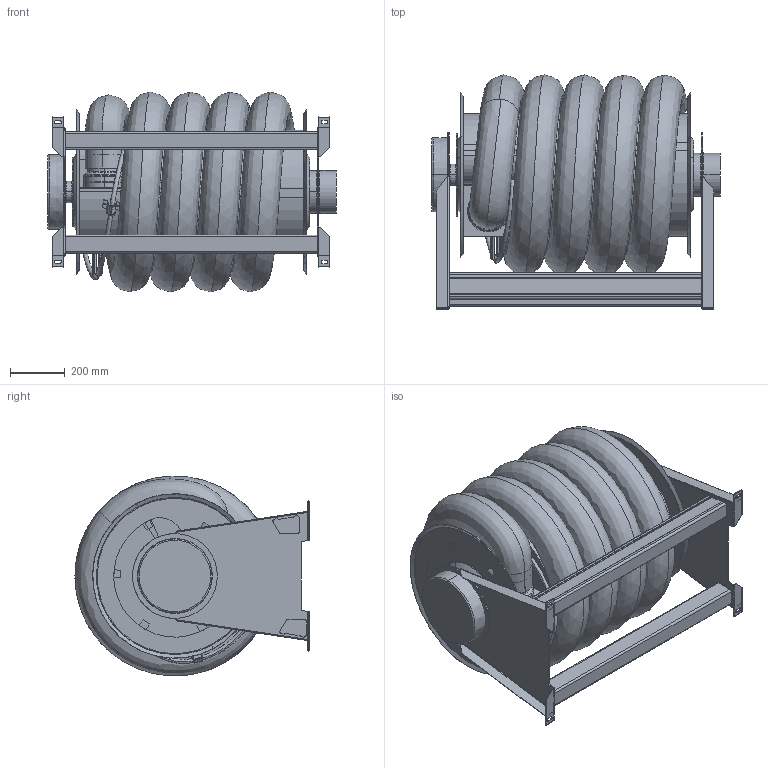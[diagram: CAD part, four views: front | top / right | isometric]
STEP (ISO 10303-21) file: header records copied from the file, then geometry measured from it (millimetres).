
FILE_DESCRIPTION((''),'2;1');
FILE_NAME('ASE_85_125-10_SW0001','2016-12-15T',('Martin Eriksson'),(''),'CREO PARAMETRIC BY PTC INC, 2016130','CREO PARAMETRIC BY PTC INC, 2016130','');
FILE_SCHEMA(('AUTOMOTIVE_DESIGN { 1 0 10303 214 1 1 1 1 }'));
Length unit declared in the file: millimetre
Products named in the file (1): ASE_85_125-10_SW0001
Bounding box: 1053.5 x 855 x 729.8 mm (x, y, z)
Surface area: 8607322.1 mm2 (no closed solid volume)
Topology: 0 solids, 30 shells, 446 faces, 1364 edges, 931 vertices
Faces by surface type: plane 210, cylinder 130, torus 48, bspline 29, cone 29
Entity records: 28450 total; most frequent: CARTESIAN_POINT 13728, DIRECTION 2620, ORIENTED_EDGE 2142, EDGE_CURVE 1364, VERTEX_POINT 931, AXIS2_PLACEMENT_3D 889, VECTOR 842, LINE 842
